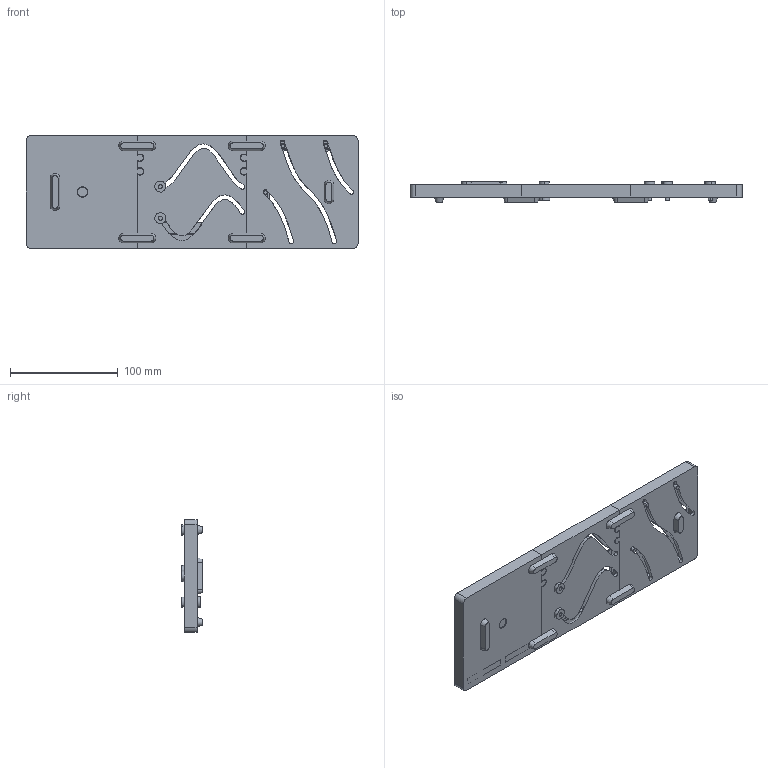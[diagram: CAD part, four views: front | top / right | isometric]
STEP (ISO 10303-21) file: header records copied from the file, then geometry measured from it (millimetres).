
FILE_DESCRIPTION (( 'STEP AP214' ), '1' );
FILE_NAME ('Mechanical Unit Circle Assembly.STEP', '2022-11-25T05:49:55', ( '' ), ( '' ), 'SwSTEP 2.0', 'SolidWorks 2021', '' );
FILE_SCHEMA (( 'AUTOMOTIVE_DESIGN' ));
Length unit declared in the file: inch
Products named in the file (17): Top Face 2; Top Face 3; Feet Tan-Side; Point Slider Cap; Driven Gear (Independent); Driving Gear (Independent); Mechanical Unit Circle Assembly; Base 1; Slider Rack; Top Face 1; Angle Pointer; Tan Slider; Feet; Base 2; Sin-Cos Slider; Point Slider; Base 3
Assembly tree (26 placements, depth 2):
  Mechanical Unit Circle Assembly
    Base 1
    Driven Gear (Independent)
    Driving Gear (Independent)
    Slider Rack
    Angle Pointer
    Top Face 1
    Base 2
    Sin-Cos Slider
    Top Face 2
    Tan Slider
    Base 3
    Top Face 3
    Feet  x5
    Point Slider  x5
    Point Slider Cap  x3
    Feet Tan-Side
Bounding box: 307.98 x 19.05 x 104.78 mm (x, y, z)
Volume: 146961.3 mm3; surface area: 182707 mm2
Topology: 26 solids, 26 shells, 1671 faces, 4735 edges, 3134 vertices
Faces by surface type: plane 908, cylinder 462, bspline 255, cone 46
Entity records: 67276 total; most frequent: CARTESIAN_POINT 25762, ORIENTED_EDGE 9046, DIRECTION 7537, EDGE_CURVE 4523, VECTOR 3121, LINE 3121, VERTEX_POINT 3000, AXIS2_PLACEMENT_3D 2208
